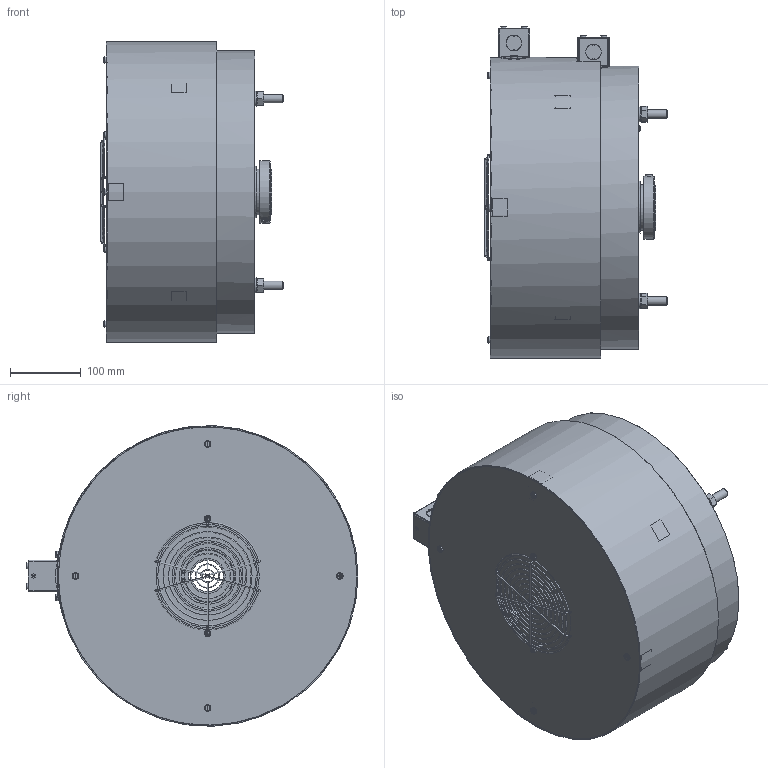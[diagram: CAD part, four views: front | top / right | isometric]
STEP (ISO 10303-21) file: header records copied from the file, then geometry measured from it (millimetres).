
FILE_DESCRIPTION((''),'2;1');
FILE_NAME('J:\WIP\Magpowr WEB\3D (Models)\Magnetic Particle Clutches and Brakes\Global Brakes\GBF24A230.stp','2010-12-02T14:27:30',('lzuniga'),(''),'Autodesk Inventor 2010','Autodesk Inventor 2010','');
FILE_SCHEMA(('AUTOMOTIVE_DESIGN { 1 0 10303 214 1 1 1 1 }'));
Length unit declared in the file: inch
Products named in the file (20): GBF24A230 Assy; GBF24 Assy; Right Stator, Left Stator, & Rotor; Junction Box & Junction Box Cover Assy; Junction Box MAGPOWR 600B347; Junction Box Cover; 8-32 x 1_4 LG; M12 X 1.75 X 160mm; M12 - Lock Washer; M12 X 1.75; Collar 714A1-12; M10 X 1.5 X 20 mm FIFE 90252-004; #12 X 0.5 LG MAGPOWR 29A90-1; External Snap Ring MAGPOWR 29A7-255; Air Hood GBF Sub-Assy MAGPOWR 600C458; Air Hood GBF MAGPOWR 600C458-1; Air Hood GBF - Mark ''C''; Fan Guard MAGPOWR 144B69-1; 10-32 X 0.50 LG; 6-32 X 0.75 LG
Assembly tree (38 placements, depth 4):
  GBF24A230 Assy
    GBF24 Assy
      Right Stator, Left Stator, & Rotor
      Junction Box & Junction Box Cover Assy
        Junction Box MAGPOWR 600B347
        Junction Box Cover
        8-32 x 1_4 LG  x2
      M12 X 1.75 X 160mm  x4
      M12 - Lock Washer  x4
      M12 X 1.75  x4
      Collar 714A1-12
      M10 X 1.5 X 20 mm FIFE 90252-004  x2
      #12 X 0.5 LG MAGPOWR 29A90-1  x2
      External Snap Ring MAGPOWR 29A7-255  x2
    Air Hood GBF Sub-Assy MAGPOWR 600C458
      Air Hood GBF MAGPOWR 600C458-1
      Fan Guard MAGPOWR 144B69-1
      Junction Box & Junction Box Cover Assy
        Junction Box MAGPOWR 600B347
        Junction Box Cover
        8-32 x 1_4 LG  x2
      10-32 X 0.50 LG  x2
      6-32 X 0.75 LG  x2
    10-32 X 0.50 LG  x4
  Air Hood GBF - Mark ''C''
Bounding box: 258.46 x 469.67 x 425.22 mm (x, y, z)
Volume: 15300253.1 mm3; surface area: 1271949.8 mm2
Topology: 55 solids, 62 shells, 923 faces, 2184 edges, 1406 vertices
Faces by surface type: plane 560, cylinder 165, bspline 133, torus 34, cone 28, sphere 3
Full cylindrical faces by diameter (mm): 2.21 x12, 2.705 x2, 3.175 x2, 3.505 x2, 3.962 x4, 4.166 x4, 4.826 x6, 4.851 x2, 5.385 x2, 6.35 x5, 6.858 x2, 7.493 x4, 7.925 x1, 8.179 x4, 9.474 x6, 9.98 x2, 10.363 x2, 11.91 x1, 11.98 x4, 12 x4, 14.29 x4, 22.225 x4, 61.44 x2, 64.991 x2, 65 x1, 74.422 x2, 88.9 x1, 91.44 x2, 100 x2, 146 x1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
Entity records: 14686 total; most frequent: CARTESIAN_POINT 4170, DIRECTION 2020, ORIENTED_EDGE 1784, EDGE_CURVE 892, AXIS2_PLACEMENT_3D 751, EDGE_LOOP 695, VERTEX_POINT 645, VECTOR 518
